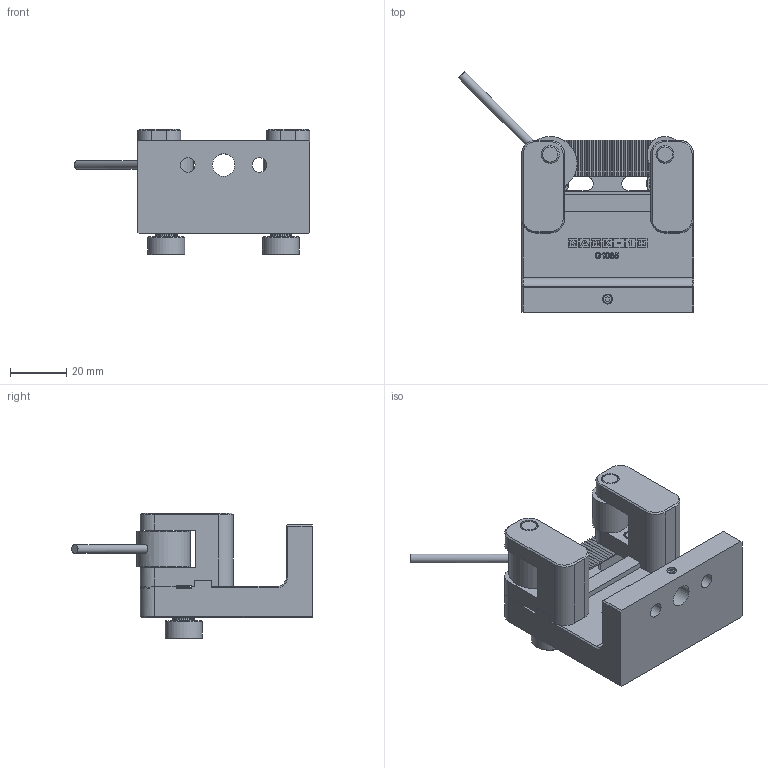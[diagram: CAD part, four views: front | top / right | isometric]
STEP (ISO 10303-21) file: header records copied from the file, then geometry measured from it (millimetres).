
FILE_DESCRIPTION((''),'2;1');
FILE_NAME('F:\CAD files\Itr\3D MARKETING MODELS\GRIPS\G1085\G1085.stp','2017-04-20T12:00:39',('mlampen'),(''),'Autodesk Inventor 2010','Autodesk Inventor 2010','');
FILE_SCHEMA(('AUTOMOTIVE_DESIGN { 1 0 10303 214 1 1 1 1 }'));
Length unit declared in the file: inch
Products named in the file (8): Assembly1; Part2; Part4; Part6; Part8; Part10; Part12; Part14
Assembly tree (7 placements, depth 2):
  Assembly1
    Part2
    Part4
    Part6
    Part8
    Part10
    Part12
    Part14
Bounding box: 83.35 x 85.26 x 44.54 mm (x, y, z)
Volume: 75295.9 mm3; surface area: 27816.7 mm2
Topology: 14 solids, 20 shells, 893 faces, 2394 edges, 1558 vertices
Faces by surface type: plane 552, cylinder 136, cone 106, bspline 95, torus 4
Full cylindrical faces by diameter (mm): 1.588 x1, 3.175 x1, 3.505 x2, 4.178 x38, 4.826 x30, 5.159 x2, 5.207 x2, 6.325 x1, 6.35 x2, 6.363 x1, 6.375 x2, 7.62 x2, 7.925 x1, 8.89 x2, 10.922 x2, 11.113 x2, 12.7 x1, 13.081 x2, 19.05 x1
Entity records: 29716 total; most frequent: CARTESIAN_POINT 8305, ORIENTED_EDGE 4362, DIRECTION 3969, EDGE_CURVE 2181, VECTOR 1637, LINE 1637, VERTEX_POINT 1546, EDGE_LOOP 1167
